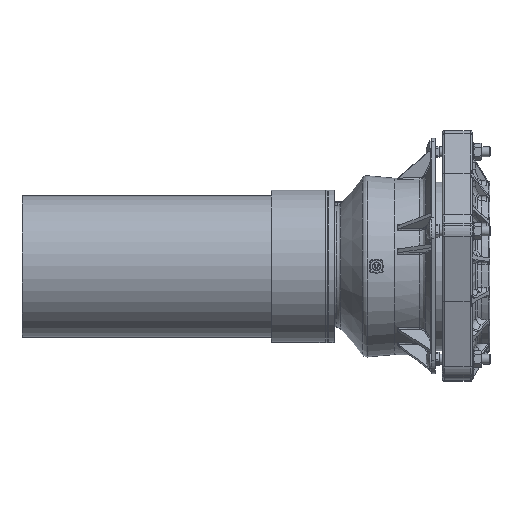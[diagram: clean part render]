
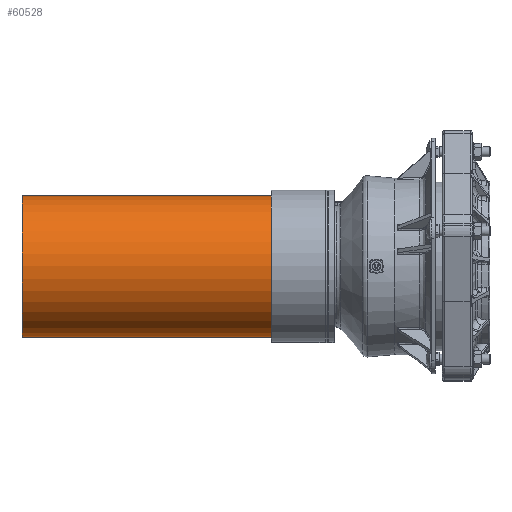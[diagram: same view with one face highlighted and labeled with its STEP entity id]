
A CAD part, front view. The second image highlights one B-rep face of the part: STEP entity #60528.
In plain terms, the highlighted cylindrical face has radius 112.5 mm (diameter 225 mm), a full revolution.
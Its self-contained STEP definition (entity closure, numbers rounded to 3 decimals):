
#60245=CARTESIAN_POINT('',(272.531,269.688,68.77));
#60246=VERTEX_POINT('',#60245);
#60247=CARTESIAN_POINT('',(272.531,269.688,181.27));
#60248=DIRECTION('',(-1.0,0.0,0.0));
#60249=DIRECTION('',(0.0,0.0,1.0));
#60250=AXIS2_PLACEMENT_3D('',#60247,#60248,#60249);
#60251=CIRCLE('',#60250,112.5);
#60252=EDGE_CURVE('',#60246,#60246,#60251,.T.);
#60509=CARTESIAN_POINT('',(-190.469,269.688,181.27));
#60510=DIRECTION('',(1.0,0.0,0.0));
#60511=DIRECTION('',(0.0,0.0,1.0));
#60512=AXIS2_PLACEMENT_3D('',#60509,#60510,#60511);
#60513=CYLINDRICAL_SURFACE('',#60512,112.5);
#60514=CARTESIAN_POINT('',(-190.469,269.688,68.77));
#60515=VERTEX_POINT('',#60514);
#60516=CARTESIAN_POINT('',(-190.469,269.688,181.27));
#60517=DIRECTION('',(-1.0,0.0,0.0));
#60518=DIRECTION('',(0.0,0.0,1.0));
#60519=AXIS2_PLACEMENT_3D('',#60516,#60517,#60518);
#60520=CIRCLE('',#60519,112.5);
#60521=EDGE_CURVE('',#60515,#60515,#60520,.T.);
#60522=ORIENTED_EDGE('',*,*,#60521,.F.);
#60523=EDGE_LOOP('',(#60522));
#60524=FACE_OUTER_BOUND('',#60523,.T.);
#60525=ORIENTED_EDGE('',*,*,#60252,.T.);
#60526=EDGE_LOOP('',(#60525));
#60527=FACE_BOUND('',#60526,.T.);
#60528=ADVANCED_FACE('',(#60524,#60527),#60513,.T.);
